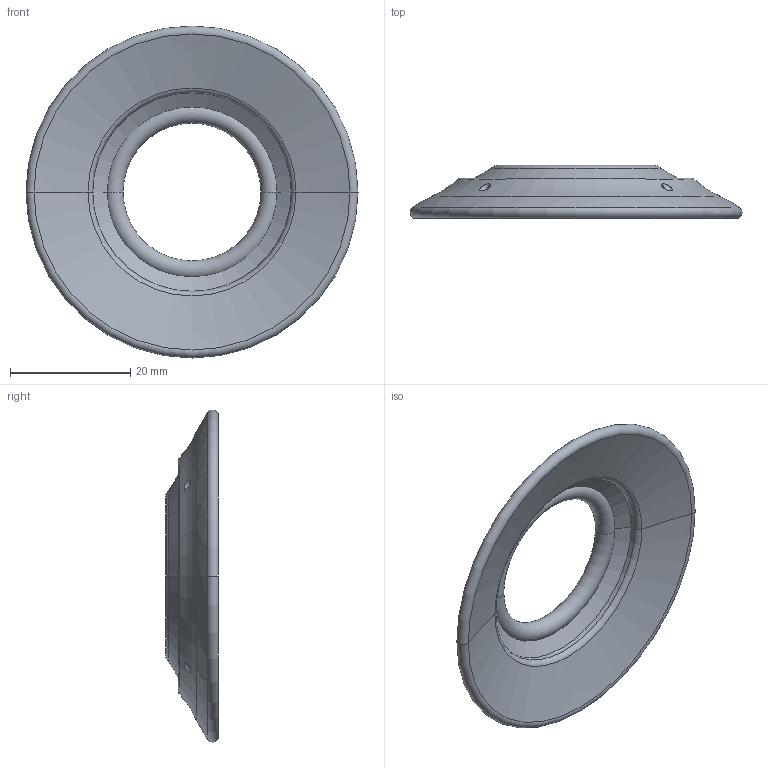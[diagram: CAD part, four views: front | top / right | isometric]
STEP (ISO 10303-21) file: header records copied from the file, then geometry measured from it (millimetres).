
FILE_DESCRIPTION (( 'STEP AP214' ), '1' );
FILE_NAME ('10F.055.001.STEP', '2025-11-13T18:10:28', ( '' ), ( '' ), 'SwSTEP 2.0', 'SolidWorks 2025', '' );
FILE_SCHEMA (( 'AUTOMOTIVE_DESIGN' ));
Length unit declared in the file: millimetre
Products named in the file (1): 10F.055.001
Bounding box: 55.2 x 8.8 x 55.2 mm (x, y, z)
Volume: 5853.2 mm3; surface area: 4817.2 mm2
Topology: 1 solids, 1 shells, 30 faces, 58 edges, 32 vertices
Faces by surface type: torus 12, cone 8, sphere 8, bspline 2
Entity records: 1019 total; most frequent: CARTESIAN_POINT 391, DIRECTION 144, ORIENTED_EDGE 110, AXIS2_PLACEMENT_3D 68, EDGE_CURVE 55, CIRCLE 39, EDGE_LOOP 36, FACE_OUTER_BOUND 32
